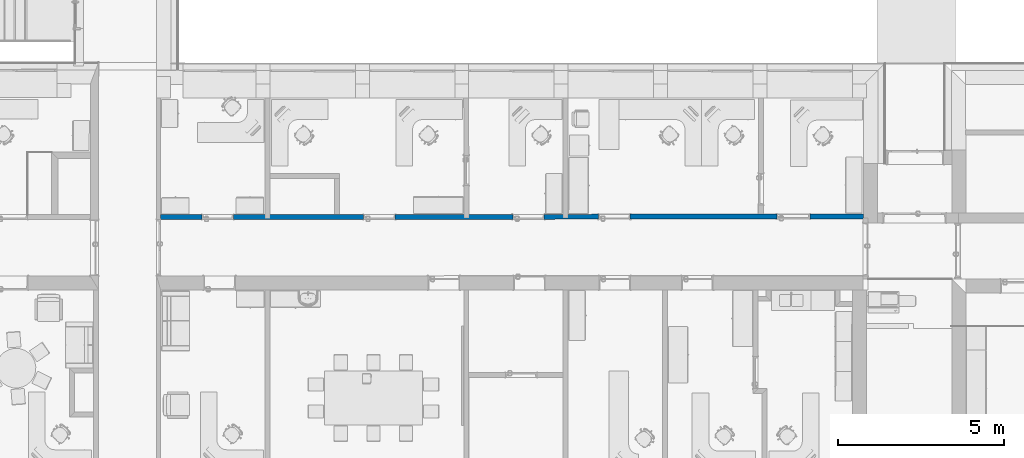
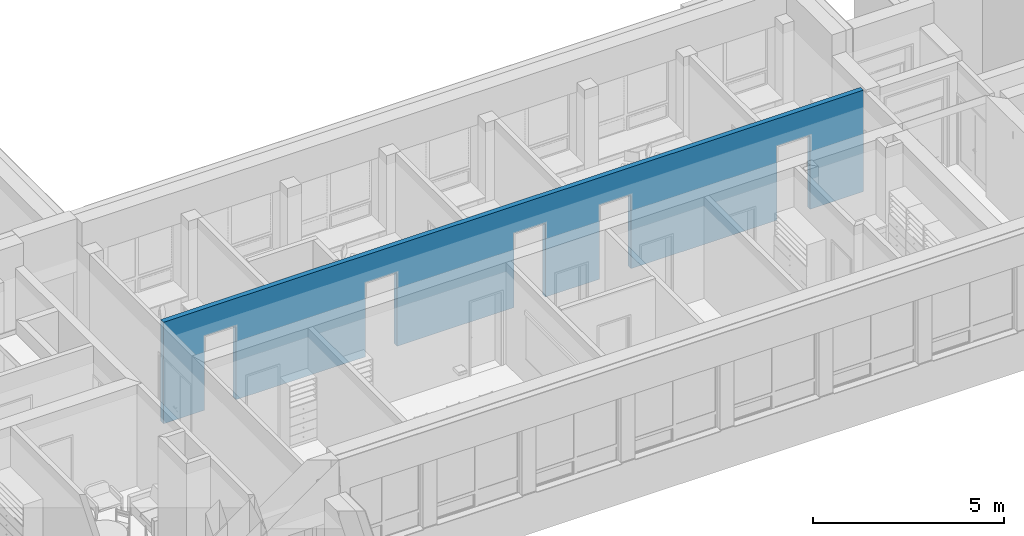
# One storey, part 16 of 194: 1 wall, 5 openings.
"""IFC2X3 building model written with IfcOpenShell, lengths in millimetres."""

from ifc_helpers import new_model, entity, si_unit, converted_unit, derived_unit, money_unit, direction, frame, origin_with_axes, origin_2d_with_axis, place, context, subcontext, project, spatial, polyline, rectangle, outline, extrude, material, layer, layer_set, layer_usage, type_object, element, save


model = new_model("IFC2X3")

# Units and contexts
model_context = context("Model", 3, precision=1e-05, world=origin_with_axes(), true_north=direction((0.0, 1.0)))
body_context = subcontext(model_context, "Body", "Model", "MODEL_VIEW")
ifc_project = project(units=[si_unit("LENGTHUNIT", "METRE", prefix="MILLI"), si_unit("AREAUNIT", "SQUARE_METRE"), si_unit("VOLUMEUNIT", "CUBIC_METRE"), converted_unit("PLANEANGLEUNIT", "DEGREE", entity("IfcPlaneAngleMeasure", 0.0174532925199), si_unit("PLANEANGLEUNIT", "RADIAN"), dimensions=[0, 0, 0, 0, 0, 0, 0]), si_unit("SOLIDANGLEUNIT", "STERADIAN"), money_unit("EUR"), converted_unit("TIMEUNIT", "Year", entity("IfcTimeMeasure", 31556926.0), si_unit("TIMEUNIT", "SECOND"), dimensions=[0, 0, 1, 0, 0, 0, 0]), si_unit("MASSUNIT", "GRAM", prefix="KILO"), si_unit("THERMODYNAMICTEMPERATUREUNIT", "DEGREE_CELSIUS"), si_unit("LUMINOUSINTENSITYUNIT", "LUMEN"), si_unit("ENERGYUNIT", "JOULE", prefix="MEGA"), derived_unit("THERMALCONDUCTANCEUNIT", [(si_unit("POWERUNIT", "WATT"), 1), (si_unit("LENGTHUNIT", "METRE"), -1), (si_unit("THERMODYNAMICTEMPERATUREUNIT", "KELVIN"), -1)]), derived_unit("SPECIFICHEATCAPACITYUNIT", [(si_unit("ENERGYUNIT", "JOULE"), 1), (si_unit("MASSUNIT", "GRAM", prefix="KILO"), -1), (si_unit("THERMODYNAMICTEMPERATUREUNIT", "KELVIN"), -1)]), derived_unit("MASSDENSITYUNIT", [(si_unit("MASSUNIT", "GRAM", prefix="KILO"), 1), (si_unit("VOLUMEUNIT", "CUBIC_METRE"), -1)])], contexts=[model_context])

# Site, building, storey
site_placement = place(None, origin_with_axes())
site = spatial("IfcSite", under=ifc_project, at=site_placement, Name="Site", CompositionType="ELEMENT")
building_placement = place(site_placement, origin_with_axes())
building = spatial("IfcBuilding", under=site, at=building_placement, Name="Building", CompositionType="ELEMENT")
storey_placement = place(building_placement, frame((0.0, 0.0, 3000.0), z_axis=(0.0, 0.0, 1.0), x_axis=(1.0, 0.0, 0.0)))
storey = spatial("IfcBuildingStorey", under=building, at=storey_placement, Name="2 KORRUS", CompositionType="ELEMENT", Elevation=3000.0)

# Wall, openings
ifc_material = material(Name="Kivi -Ol.Olev Konstruktsioon")
ifc_layer = layer(ifc_material, 150.0, ventilated="UNKNOWN")
ifc_layer_set = layer_set([ifc_layer], Name="ol.olev ss 150")
ifc_layer_usage = layer_usage(ifc_layer_set, "AXIS2", "NEGATIVE", 150.0)
wall_type = type_object("IfcWallType", Name="SW - 022", PredefinedType="NOTDEFINED")
wall_placement = place(storey_placement, frame((39734.3292711, 42800.5446898, 0.0), z_axis=(0.0, 0.0, 1.0), x_axis=(0.999999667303, 0.000815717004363, 0.0)))
wall = element("IfcWallStandardCase", 1, at=wall_placement, inside=storey, type_object=wall_type, material=ifc_layer_usage, Name="ol.olev ss 150", context=body_context, shape_type="SweptSolid", body=[
    extrude(outline(polyline([(120.000039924, 9.09494701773e-10), (21333.1761854, 9.09494701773e-10), (21333.1761854, 150.000000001), (120.122397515, 150.000000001), (120.000039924, 9.09494701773e-10)])), origin_with_axes(), (0.0, 0.0, 1.0), 3250.0),
])
opening_1_placement = place(wall_placement, frame((19220.8505427, 9.09494701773e-10, 0.0), z_axis=(0.0, 0.0, 1.0), x_axis=(1.0, 0.0, 0.0)))
element("IfcOpeningElement", 2, at=opening_1_placement, cuts=wall, Name="Siseuks * Door 22", context=body_context, shape_type="SweptSolid", body=[
    extrude(rectangle(XDim=1000.0, YDim=2370.0, at=origin_2d_with_axis()), frame((-1.13686837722e-10, 149.999999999, 1185.0), z_axis=(0.0, 1.0, 0.0), x_axis=(1.0, 0.0, 0.0)), (0.0, 0.0, -1.0), 450.0),
    extrude(rectangle(XDim=1074.0, YDim=2407.0, at=origin_2d_with_axis()), frame((0.0, 150.0, 1203.5), z_axis=(0.0, 1.0, 0.0), x_axis=(1.0, 0.0, 0.0)), (0.0, 0.0, 1.0), 150.0),
    extrude(rectangle(XDim=1074.0, YDim=2407.0, at=origin_2d_with_axis()), frame((0.0, 0.0, 1203.5), z_axis=(0.0, -1.0, 0.0), x_axis=(1.0, 0.0, 0.0)), (0.0, 0.0, 1.0), 150.0),
])
opening_2_placement = place(wall_placement, frame((13815.8562241, 9.09494701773e-10, 0.0), z_axis=(0.0, 0.0, 1.0), x_axis=(1.0, 0.0, 0.0)))
element("IfcOpeningElement", 3, at=opening_2_placement, cuts=wall, Name="Siseuks * Door 22", context=body_context, shape_type="SweptSolid", body=[
    extrude(rectangle(XDim=950.0, YDim=2370.0, at=origin_2d_with_axis()), frame((1.13686837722e-10, 150.0, 1185.0), z_axis=(0.0, 1.0, 0.0), x_axis=(1.0, 0.0, 0.0)), (0.0, 0.0, -1.0), 450.0),
    extrude(rectangle(XDim=1024.0, YDim=2407.0, at=origin_2d_with_axis()), frame((0.0, 150.0, 1203.5), z_axis=(0.0, 1.0, 0.0), x_axis=(1.0, 0.0, 0.0)), (0.0, 0.0, 1.0), 150.0),
    extrude(rectangle(XDim=1024.0, YDim=2407.0, at=origin_2d_with_axis()), frame((0.0, 0.0, 1203.5), z_axis=(0.0, -1.0, 0.0), x_axis=(1.0, 0.0, 0.0)), (0.0, 0.0, 1.0), 150.0),
])
opening_3_placement = place(wall_placement, frame((11224.9110139, 9.09494701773e-10, 0.0), z_axis=(0.0, 0.0, 1.0), x_axis=(1.0, 0.0, 0.0)))
element("IfcOpeningElement", 4, at=opening_3_placement, cuts=wall, Name="Siseuks * Door 22", context=body_context, shape_type="SweptSolid", body=[
    extrude(rectangle(XDim=950.0, YDim=2370.0, at=origin_2d_with_axis()), frame((1.13686837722e-10, 149.999999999, 1185.0), z_axis=(0.0, 1.0, 0.0), x_axis=(1.0, 0.0, 0.0)), (0.0, 0.0, -1.0), 450.0),
    extrude(rectangle(XDim=1024.0, YDim=2407.0, at=origin_2d_with_axis()), frame((1.13686837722e-10, 150.0, 1203.5), z_axis=(0.0, 1.0, 0.0), x_axis=(1.0, 0.0, 0.0)), (0.0, 0.0, 1.0), 150.0),
    extrude(rectangle(XDim=1024.0, YDim=2407.0, at=origin_2d_with_axis()), frame((0.0, 0.0, 1203.5), z_axis=(0.0, -1.0, 0.0), x_axis=(1.0, 0.0, 0.0)), (0.0, 0.0, 1.0), 150.0),
])
opening_4_placement = place(wall_placement, frame((6723.7215502, 9.09494701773e-10, 0.0), z_axis=(0.0, 0.0, 1.0), x_axis=(1.0, 0.0, 0.0)))
element("IfcOpeningElement", 5, at=opening_4_placement, cuts=wall, Name="Siseuks * Door 22", context=body_context, shape_type="SweptSolid", body=[
    extrude(rectangle(XDim=950.0, YDim=2370.0, at=origin_2d_with_axis()), frame((0.0, 150.000000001, 1185.0), z_axis=(0.0, 1.0, 0.0), x_axis=(1.0, 0.0, 0.0)), (0.0, 0.0, -1.0), 450.0),
    extrude(rectangle(XDim=1024.0, YDim=2407.0, at=origin_2d_with_axis()), frame((-1.13686837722e-10, 150.0, 1203.5), z_axis=(0.0, 1.0, 0.0), x_axis=(1.0, 0.0, 0.0)), (0.0, 0.0, 1.0), 150.0),
    extrude(rectangle(XDim=1024.0, YDim=2407.0, at=origin_2d_with_axis()), frame((0.0, 0.0, 1203.5), z_axis=(0.0, -1.0, 0.0), x_axis=(1.0, 0.0, 0.0)), (0.0, 0.0, 1.0), 150.0),
])
opening_5_placement = place(wall_placement, frame((1846.77192337, 0.0, 0.0), z_axis=(0.0, 0.0, 1.0), x_axis=(1.0, 0.0, 0.0)))
element("IfcOpeningElement", 6, at=opening_5_placement, cuts=wall, Name="Siseuks * Door 22", context=body_context, shape_type="SweptSolid", body=[
    extrude(rectangle(XDim=950.0, YDim=2370.0, at=origin_2d_with_axis()), frame((0.0, 150.000000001, 1185.0), z_axis=(0.0, 1.0, 0.0), x_axis=(1.0, 0.0, 0.0)), (0.0, 0.0, -1.0), 450.0),
    extrude(rectangle(XDim=1024.0, YDim=2407.0, at=origin_2d_with_axis()), frame((0.0, 150.000000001, 1203.5), z_axis=(0.0, 1.0, 0.0), x_axis=(1.0, 0.0, 0.0)), (0.0, 0.0, 1.0), 150.0),
    extrude(rectangle(XDim=1024.0, YDim=2407.0, at=origin_2d_with_axis()), frame((0.0, 0.0, 1203.5), z_axis=(0.0, -1.0, 0.0), x_axis=(1.0, 0.0, 0.0)), (0.0, 0.0, 1.0), 150.0),
])

save(model, "model.ifc")
